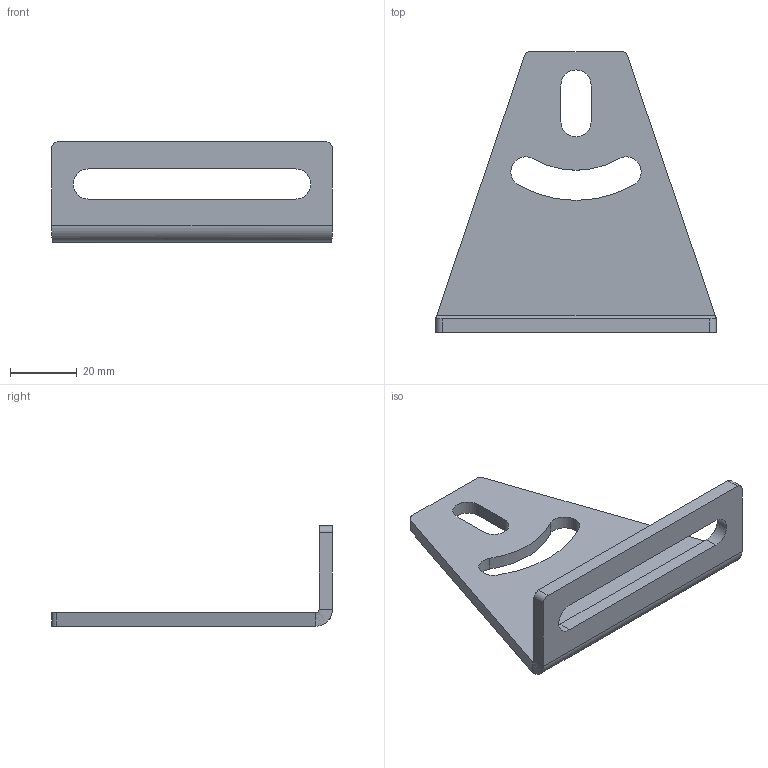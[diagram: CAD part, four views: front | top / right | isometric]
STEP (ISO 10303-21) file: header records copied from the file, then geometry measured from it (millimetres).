
FILE_DESCRIPTION (( 'STEP AP214' ), '1' );
FILE_NAME ('PL1.step', '2017-04-05T08:05:21', ( '' ), ( '' ), 'SwSTEP 2.0', 'SolidWorks 2015', '' );
FILE_SCHEMA (( 'AUTOMOTIVE_DESIGN' ));
Length unit declared in the file: millimetre
Products named in the file (1): PL1
Bounding box: 84 x 84 x 30 mm (x, y, z)
Volume: 23351.8 mm3; surface area: 14201.5 mm2
Topology: 1 solids, 1 shells, 31 faces, 79 edges, 50 vertices
Faces by surface type: cylinder 15, plane 14, bspline 2
Entity records: 1027 total; most frequent: CARTESIAN_POINT 227, DIRECTION 161, ORIENTED_EDGE 158, EDGE_CURVE 79, AXIS2_PLACEMENT_3D 56, VERTEX_POINT 50, VECTOR 49, LINE 49
